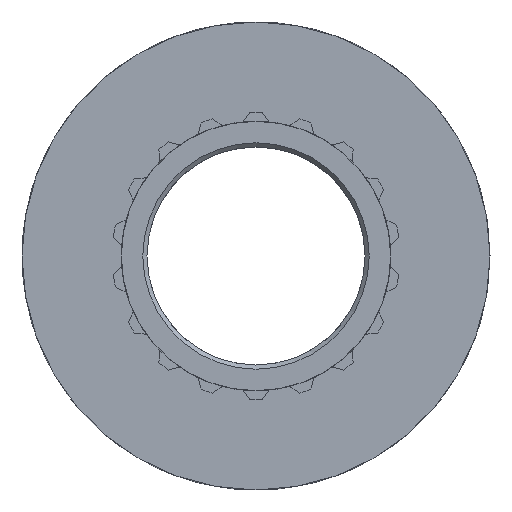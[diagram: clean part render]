
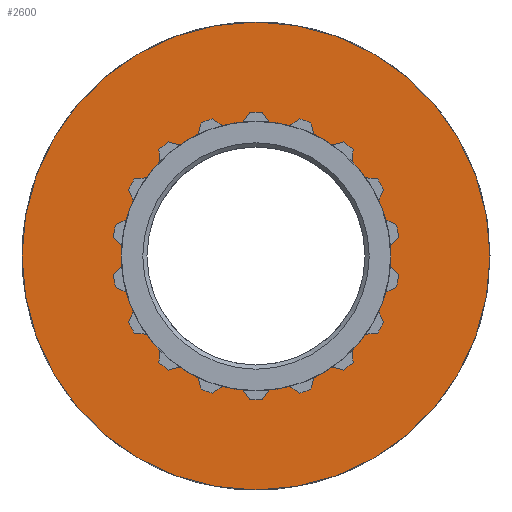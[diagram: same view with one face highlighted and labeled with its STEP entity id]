
A CAD part, left-side view. The second image highlights one B-rep face of the part: STEP entity #2600.
In plain terms, the highlighted planar face has unit normal (-1, 0, 0).
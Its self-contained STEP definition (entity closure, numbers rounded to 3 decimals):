
#21=FACE_BOUND($,#466,.T.);
#86=CIRCLE($,#2712,1.6);
#173=CIRCLE($,#2870,2.78);
#316=FACE_OUTER_BOUND($,#465,.T.);
#465=EDGE_LOOP($,(#2331));
#466=EDGE_LOOP($,(#2332));
#1181=VERTEX_POINT($,#4200);
#1214=VERTEX_POINT($,#4420);
#1473=EDGE_CURVE($,#1181,#1181,#86,.T.);
#1589=EDGE_CURVE($,#1214,#1214,#173,.T.);
#2331=ORIENTED_EDGE($,*,*,#1589,.F.);
#2332=ORIENTED_EDGE($,*,*,#1473,.T.);
#2459=PLANE($,#2869);
#2600=ADVANCED_FACE($,(#316,#21),#2459,.T.);
#2712=AXIS2_PLACEMENT_3D($,#4201,#3308,#3309);
#2869=AXIS2_PLACEMENT_3D($,#4419,#3651,#3652);
#2870=AXIS2_PLACEMENT_3D($,#4421,#3653,#3654);
#3308=DIRECTION('center_axis',(1.,0.,0.));
#3309=DIRECTION('ref_axis',(0.,1.,0.));
#3651=DIRECTION('center_axis',(-1.,0.,0.));
#3652=DIRECTION('ref_axis',(0.,0.,1.));
#3653=DIRECTION('center_axis',(1.,0.,0.));
#3654=DIRECTION('ref_axis',(0.,1.,0.));
#4200=CARTESIAN_POINT('',(4.369,1.6,0.));
#4201=CARTESIAN_POINT('Origin',(4.369,0.,0.));
#4419=CARTESIAN_POINT('Origin',(4.369,2.19,0.));
#4420=CARTESIAN_POINT('',(4.369,2.78,0.));
#4421=CARTESIAN_POINT('Origin',(4.369,0.,0.));
